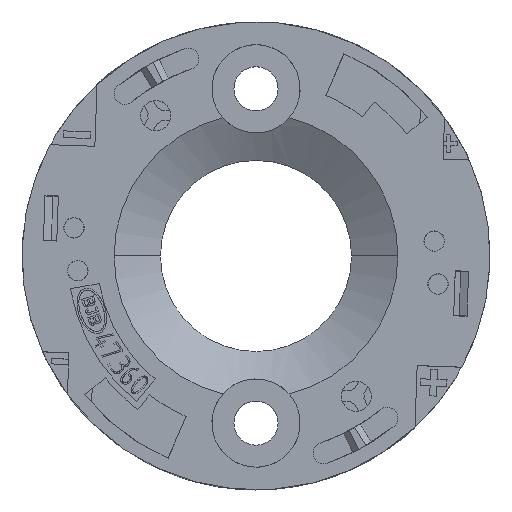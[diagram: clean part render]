
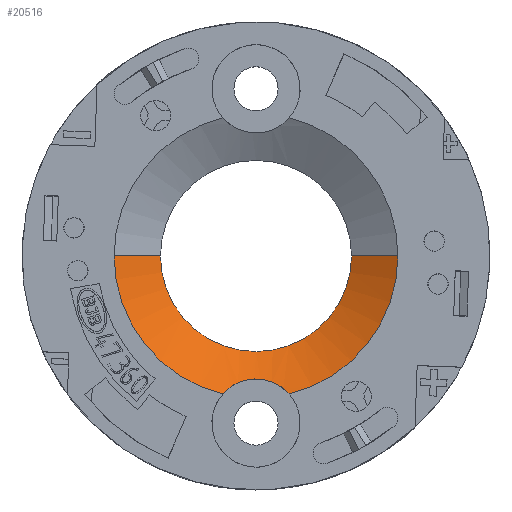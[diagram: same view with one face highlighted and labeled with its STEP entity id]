
A CAD part, top view. The second image highlights one B-rep face of the part: STEP entity #20516.
In plain terms, the highlighted free-form (B-spline) face has degree [7, 1] with [8, 2] control points.
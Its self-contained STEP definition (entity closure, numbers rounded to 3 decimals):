
#13596=CARTESIAN_POINT(' ',(10.614,0.,3.));
#13597=VERTEX_POINT(' ',#13596);
#13611=CARTESIAN_POINT(' ',(0.,0.,3.));
#13616=DIRECTION(' ',(0.,0.,-1.));
#13621=DIRECTION(' ',(1.,0.,0.));
#13626=AXIS2_PLACEMENT_3D(' ',#13611,#13616,#13621);
#13631=CIRCLE('',#13626,10.614);
#13636=CARTESIAN_POINT(' ',(2.478,-10.321,3.));
#13637=VERTEX_POINT(' ',#13636);
#13641=EDGE_CURVE(' ',#13597,#13637,#13631,.T.);
#13756=CARTESIAN_POINT(' ',(-2.478,-10.321,3.));
#13757=VERTEX_POINT(' ',#13756);
#13771=CARTESIAN_POINT(' ',(0.,0.,3.));
#13776=DIRECTION(' ',(0.,0.,-1.));
#13781=DIRECTION(' ',(-0.233,-0.972,0.));
#13786=AXIS2_PLACEMENT_3D(' ',#13771,#13776,#13781);
#13791=CIRCLE('',#13786,10.614);
#13796=CARTESIAN_POINT(' ',(-10.614,0.,3.));
#13797=VERTEX_POINT(' ',#13796);
#13801=EDGE_CURVE(' ',#13757,#13797,#13791,.T.);
#20086=CARTESIAN_POINT(' ',(-10.614,0.,3.));
#20091=DIRECTION(' ',(0.866,0.,-0.5));
#20096=VECTOR(' ',#20091,1.);
#20101=LINE('',#20086,#20096);
#20106=CARTESIAN_POINT(' ',(-7.15,0.,1.));
#20107=VERTEX_POINT(' ',#20106);
#20111=EDGE_CURVE(' ',#13797,#20107,#20101,.T.);
#20186=CARTESIAN_POINT(' ',(7.15,0.,1.));
#20187=VERTEX_POINT(' ',#20186);
#20201=CARTESIAN_POINT(' ',(7.15,0.,1.));
#20206=DIRECTION(' ',(0.866,0.,0.5));
#20211=VECTOR(' ',#20206,1.);
#20216=LINE('',#20201,#20211);
#20221=EDGE_CURVE(' ',#20187,#13597,#20216,.T.);
#20261=CARTESIAN_POINT(' ',(-10.614,0.,3.));
#20266=CARTESIAN_POINT(' ',(-7.15,0.,1.));
#20271=CARTESIAN_POINT(' ',(-10.614,-4.764,3.));
#20276=CARTESIAN_POINT(' ',(-7.15,-3.209,1.));
#20281=CARTESIAN_POINT(' ',(-8.119,-9.523,3.));
#20286=CARTESIAN_POINT(' ',(-5.469,-6.415,1.));
#20291=CARTESIAN_POINT(' ',(-3.136,-12.742,3.));
#20296=CARTESIAN_POINT(' ',(-2.112,-8.583,1.));
#20301=CARTESIAN_POINT(' ',(3.136,-12.742,3.));
#20306=CARTESIAN_POINT(' ',(2.112,-8.583,1.));
#20311=CARTESIAN_POINT(' ',(8.119,-9.523,3.));
#20316=CARTESIAN_POINT(' ',(5.469,-6.415,1.));
#20321=CARTESIAN_POINT(' ',(10.614,-4.764,3.));
#20326=CARTESIAN_POINT(' ',(7.15,-3.209,1.));
#20331=CARTESIAN_POINT(' ',(10.614,0.,3.));
#20336=CARTESIAN_POINT(' ',(7.15,0.,1.));
#20341=B_SPLINE_SURFACE_WITH_KNOTS(' ',7,1,((#20261,#20266),(#20271,#20276),(#20281,#20286),(#20291,#20296),(#20301,#20306),(#20311,#20316),(#20321,#20326),(#20331,#20336)),.UNSPECIFIED.,.F.,.F.,.U.,(8,8),(2,2),(0.,1.),(0.,1.),.UNSPECIFIED.);
#20346=ORIENTED_EDGE(' ',*,*,#20111,.F.);
#20351=ORIENTED_EDGE(' ',*,*,#13801,.F.);
#20356=CARTESIAN_POINT(' ',(2.478,-10.321,3.));
#20361=CARTESIAN_POINT(' ',(2.059,-9.845,2.676));
#20366=CARTESIAN_POINT(' ',(1.502,-9.475,2.397));
#20371=CARTESIAN_POINT(' ',(0.484,-9.219,2.199));
#20376=CARTESIAN_POINT(' ',(0.116,-9.181,2.169));
#20381=CARTESIAN_POINT(' ',(-0.712,-9.245,2.219));
#20386=CARTESIAN_POINT(' ',(-1.064,-9.355,2.305));
#20391=CARTESIAN_POINT(' ',(-1.822,-9.708,2.57));
#20396=CARTESIAN_POINT(' ',(-2.186,-9.989,2.774));
#20401=CARTESIAN_POINT(' ',(-2.478,-10.321,3.));
#20406=B_SPLINE_CURVE_WITH_KNOTS('',3,(#20356,#20361,#20366,#20371,#20376,#20381,#20386,#20391,#20396,#20401),.UNSPECIFIED.,.F.,.U.,(4,2,2,2,4),(0.,0.358,0.524,0.732,1.),.UNSPECIFIED.);
#20411=EDGE_CURVE(' ',#13637,#13757,#20406,.T.);
#20416=ORIENTED_EDGE(' ',*,*,#20411,.F.);
#20421=ORIENTED_EDGE(' ',*,*,#13641,.F.);
#20426=ORIENTED_EDGE(' ',*,*,#20221,.F.);
#20431=CARTESIAN_POINT(' ',(0.,0.,1.));
#20436=DIRECTION(' ',(0.,0.,-1.));
#20441=DIRECTION(' ',(1.,0.,0.));
#20446=AXIS2_PLACEMENT_3D(' ',#20431,#20436,#20441);
#20451=CIRCLE('',#20446,7.15);
#20456=CARTESIAN_POINT(' ',(0.,-7.15,1.));
#20457=VERTEX_POINT(' ',#20456);
#20461=EDGE_CURVE(' ',#20187,#20457,#20451,.T.);
#20466=ORIENTED_EDGE(' ',*,*,#20461,.T.);
#20471=CARTESIAN_POINT(' ',(0.,0.,1.));
#20476=DIRECTION(' ',(0.,0.,-1.));
#20481=DIRECTION(' ',(0.,-1.,0.));
#20486=AXIS2_PLACEMENT_3D(' ',#20471,#20476,#20481);
#20491=CIRCLE('',#20486,7.15);
#20496=EDGE_CURVE(' ',#20457,#20107,#20491,.T.);
#20501=ORIENTED_EDGE(' ',*,*,#20496,.T.);
#20506=EDGE_LOOP(' ',(#20346,#20351,#20416,#20421,#20426,#20466,#20501));
#20511=FACE_OUTER_BOUND(' ',#20506,.T.);
#20516=ADVANCED_FACE('',(#20511),#20341,.T.);
